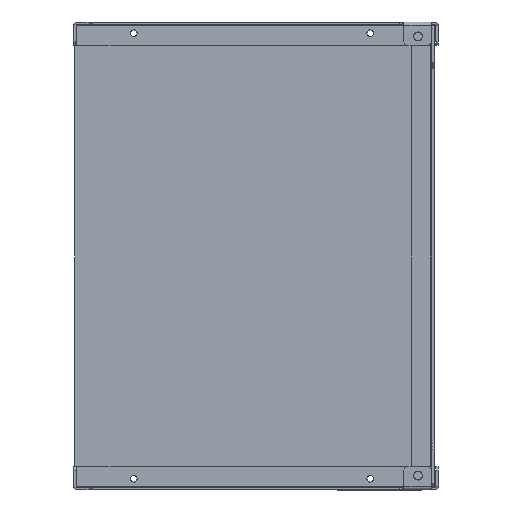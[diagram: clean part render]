
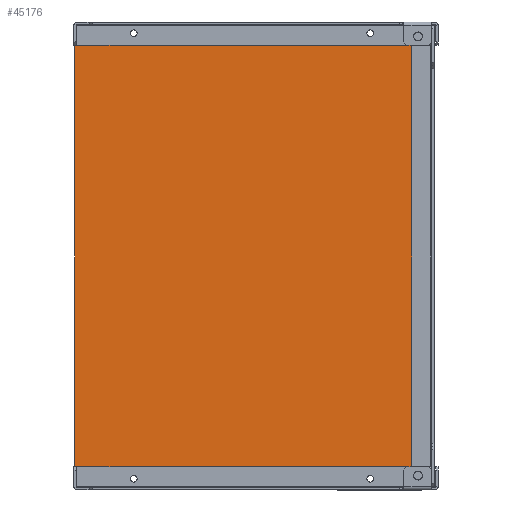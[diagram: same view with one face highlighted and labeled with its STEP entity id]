
A CAD part, front view. The second image highlights one B-rep face of the part: STEP entity #45176.
In plain terms, the highlighted planar face has unit normal (0, -1, 0) as drawn and (0, 0, 1) by its records, which use the part's own axes.
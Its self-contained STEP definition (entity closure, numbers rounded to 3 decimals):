
#43741=CARTESIAN_POINT(' ',(71.25,-139.5,0.));
#43742=VERTEX_POINT(' ',#43741);
#43756=CARTESIAN_POINT(' ',(74.,-139.5,0.));
#43761=DIRECTION(' ',(0.,-0.,1.));
#43766=DIRECTION(' ',(-1.,0.,0.));
#43771=AXIS2_PLACEMENT_3D(' ',#43756,#43761,#43766);
#43776=CIRCLE('',#43771,2.75);
#43781=CARTESIAN_POINT(' ',(76.75,-139.5,0.));
#43782=VERTEX_POINT(' ',#43781);
#43786=EDGE_CURVE(' ',#43742,#43782,#43776,.T.);
#44521=CARTESIAN_POINT(' ',(74.,-139.5,0.));
#44526=DIRECTION(' ',(0.,0.,1.));
#44531=DIRECTION(' ',(1.,0.,0.));
#44536=AXIS2_PLACEMENT_3D(' ',#44521,#44526,#44531);
#44541=CIRCLE('',#44536,2.75);
#44546=EDGE_CURVE(' ',#43782,#43742,#44541,.T.);
#44571=DIRECTION(' ',(-0.,0.,1.));
#44576=CARTESIAN_POINT(' ',(-111.,-146.5,0.));
#44581=DIRECTION(' ',(1.,0.,0.));
#44586=AXIS2_PLACEMENT_3D(' ',#44576,#44571,#44581);
#44591=PLANE('NONE',#44586);
#44596=CARTESIAN_POINT(' ',(-111.,141.5,0.));
#44601=DIRECTION(' ',(0.,-1.,0.));
#44606=VECTOR(' ',#44601,1.);
#44611=LINE('',#44596,#44606);
#44616=CARTESIAN_POINT(' ',(-111.,141.5,0.));
#44617=VERTEX_POINT(' ',#44616);
#44621=CARTESIAN_POINT(' ',(-111.,-141.5,0.));
#44622=VERTEX_POINT(' ',#44621);
#44626=EDGE_CURVE(' ',#44617,#44622,#44611,.T.);
#44631=ORIENTED_EDGE(' ',*,*,#44626,.T.);
#44636=CARTESIAN_POINT(' ',(-111.,-141.5,0.));
#44641=DIRECTION(' ',(0.707,-0.707,0.));
#44646=VECTOR(' ',#44641,1.);
#44651=LINE('',#44636,#44646);
#44656=CARTESIAN_POINT(' ',(-106.,-146.5,0.));
#44657=VERTEX_POINT(' ',#44656);
#44661=EDGE_CURVE(' ',#44622,#44657,#44651,.T.);
#44666=ORIENTED_EDGE(' ',*,*,#44661,.T.);
#44671=CARTESIAN_POINT(' ',(-106.,-146.5,0.));
#44676=DIRECTION(' ',(1.,0.,0.));
#44681=VECTOR(' ',#44676,1.);
#44686=LINE('',#44671,#44681);
#44691=CARTESIAN_POINT(' ',(106.,-146.5,0.));
#44692=VERTEX_POINT(' ',#44691);
#44696=EDGE_CURVE(' ',#44657,#44692,#44686,.T.);
#44701=ORIENTED_EDGE(' ',*,*,#44696,.T.);
#44706=CARTESIAN_POINT(' ',(106.,-146.5,0.));
#44711=DIRECTION(' ',(0.707,0.707,0.));
#44716=VECTOR(' ',#44711,1.);
#44721=LINE('',#44706,#44716);
#44726=CARTESIAN_POINT(' ',(111.,-141.5,0.));
#44727=VERTEX_POINT(' ',#44726);
#44731=EDGE_CURVE(' ',#44692,#44727,#44721,.T.);
#44736=ORIENTED_EDGE(' ',*,*,#44731,.T.);
#44741=CARTESIAN_POINT(' ',(111.,-141.5,0.));
#44746=DIRECTION(' ',(0.,1.,0.));
#44751=VECTOR(' ',#44746,1.);
#44756=LINE('',#44741,#44751);
#44761=CARTESIAN_POINT(' ',(111.,141.5,0.));
#44762=VERTEX_POINT(' ',#44761);
#44766=EDGE_CURVE(' ',#44727,#44762,#44756,.T.);
#44771=ORIENTED_EDGE(' ',*,*,#44766,.T.);
#44776=CARTESIAN_POINT(' ',(111.,141.5,0.));
#44781=DIRECTION(' ',(-0.707,0.707,0.));
#44786=VECTOR(' ',#44781,1.);
#44791=LINE('',#44776,#44786);
#44796=CARTESIAN_POINT(' ',(106.,146.5,0.));
#44797=VERTEX_POINT(' ',#44796);
#44801=EDGE_CURVE(' ',#44762,#44797,#44791,.T.);
#44806=ORIENTED_EDGE(' ',*,*,#44801,.T.);
#44811=CARTESIAN_POINT(' ',(106.,146.5,0.));
#44816=DIRECTION(' ',(-1.,0.,0.));
#44821=VECTOR(' ',#44816,1.);
#44826=LINE('',#44811,#44821);
#44831=CARTESIAN_POINT(' ',(-106.,146.5,0.));
#44832=VERTEX_POINT(' ',#44831);
#44836=EDGE_CURVE(' ',#44797,#44832,#44826,.T.);
#44841=ORIENTED_EDGE(' ',*,*,#44836,.T.);
#44846=CARTESIAN_POINT(' ',(-106.,146.5,0.));
#44851=DIRECTION(' ',(-0.707,-0.707,0.));
#44856=VECTOR(' ',#44851,1.);
#44861=LINE('',#44846,#44856);
#44866=EDGE_CURVE(' ',#44832,#44617,#44861,.T.);
#44871=ORIENTED_EDGE(' ',*,*,#44866,.T.);
#44876=EDGE_LOOP(' ',(#44631,#44666,#44701,#44736,#44771,#44806,#44841,#44871));
#44881=FACE_OUTER_BOUND(' ',#44876,.T.);
#44886=ORIENTED_EDGE(' ',*,*,#44546,.F.);
#44891=ORIENTED_EDGE(' ',*,*,#43786,.F.);
#44896=EDGE_LOOP(' ',(#44886,#44891));
#44901=FACE_BOUND(' ',#44896,.T.);
#44906=CARTESIAN_POINT(' ',(74.,139.5,0.));
#44911=DIRECTION(' ',(0.,0.,1.));
#44916=DIRECTION(' ',(1.,0.,0.));
#44921=AXIS2_PLACEMENT_3D(' ',#44906,#44911,#44916);
#44926=CIRCLE('',#44921,2.75);
#44931=CARTESIAN_POINT(' ',(76.75,139.5,0.));
#44932=VERTEX_POINT(' ',#44931);
#44936=CARTESIAN_POINT(' ',(71.25,139.5,0.));
#44937=VERTEX_POINT(' ',#44936);
#44941=EDGE_CURVE(' ',#44932,#44937,#44926,.T.);
#44946=ORIENTED_EDGE(' ',*,*,#44941,.F.);
#44951=CARTESIAN_POINT(' ',(74.,139.5,0.));
#44956=DIRECTION(' ',(0.,-0.,1.));
#44961=DIRECTION(' ',(-1.,0.,0.));
#44966=AXIS2_PLACEMENT_3D(' ',#44951,#44956,#44961);
#44971=CIRCLE('',#44966,2.75);
#44976=EDGE_CURVE(' ',#44937,#44932,#44971,.T.);
#44981=ORIENTED_EDGE(' ',*,*,#44976,.F.);
#44986=EDGE_LOOP(' ',(#44946,#44981));
#44991=FACE_BOUND(' ',#44986,.T.);
#44996=CARTESIAN_POINT(' ',(-74.,139.5,0.));
#45001=DIRECTION(' ',(0.,0.,1.));
#45006=DIRECTION(' ',(1.,0.,0.));
#45011=AXIS2_PLACEMENT_3D(' ',#44996,#45001,#45006);
#45016=CIRCLE('',#45011,2.75);
#45021=CARTESIAN_POINT(' ',(-71.25,139.5,0.));
#45022=VERTEX_POINT(' ',#45021);
#45026=CARTESIAN_POINT(' ',(-76.75,139.5,0.));
#45027=VERTEX_POINT(' ',#45026);
#45031=EDGE_CURVE(' ',#45022,#45027,#45016,.T.);
#45036=ORIENTED_EDGE(' ',*,*,#45031,.F.);
#45041=CARTESIAN_POINT(' ',(-74.,139.5,0.));
#45046=DIRECTION(' ',(0.,-0.,1.));
#45051=DIRECTION(' ',(-1.,0.,0.));
#45056=AXIS2_PLACEMENT_3D(' ',#45041,#45046,#45051);
#45061=CIRCLE('',#45056,2.75);
#45066=EDGE_CURVE(' ',#45027,#45022,#45061,.T.);
#45071=ORIENTED_EDGE(' ',*,*,#45066,.F.);
#45076=EDGE_LOOP(' ',(#45036,#45071));
#45081=FACE_BOUND(' ',#45076,.T.);
#45086=CARTESIAN_POINT(' ',(-74.,-139.5,0.));
#45091=DIRECTION(' ',(0.,0.,1.));
#45096=DIRECTION(' ',(1.,0.,0.));
#45101=AXIS2_PLACEMENT_3D(' ',#45086,#45091,#45096);
#45106=CIRCLE('',#45101,2.75);
#45111=CARTESIAN_POINT(' ',(-71.25,-139.5,0.));
#45112=VERTEX_POINT(' ',#45111);
#45116=CARTESIAN_POINT(' ',(-76.75,-139.5,0.));
#45117=VERTEX_POINT(' ',#45116);
#45121=EDGE_CURVE(' ',#45112,#45117,#45106,.T.);
#45126=ORIENTED_EDGE(' ',*,*,#45121,.F.);
#45131=CARTESIAN_POINT(' ',(-74.,-139.5,0.));
#45136=DIRECTION(' ',(0.,-0.,1.));
#45141=DIRECTION(' ',(-1.,0.,0.));
#45146=AXIS2_PLACEMENT_3D(' ',#45131,#45136,#45141);
#45151=CIRCLE('',#45146,2.75);
#45156=EDGE_CURVE(' ',#45117,#45112,#45151,.T.);
#45161=ORIENTED_EDGE(' ',*,*,#45156,.F.);
#45166=EDGE_LOOP(' ',(#45126,#45161));
#45171=FACE_BOUND(' ',#45166,.T.);
#45176=ADVANCED_FACE('NONE',(#44881,#44901,#44991,#45081,#45171),#44591,.T.);
